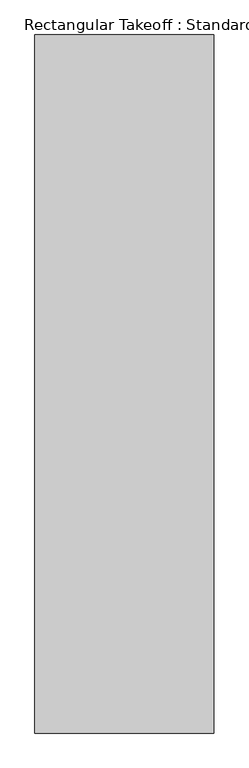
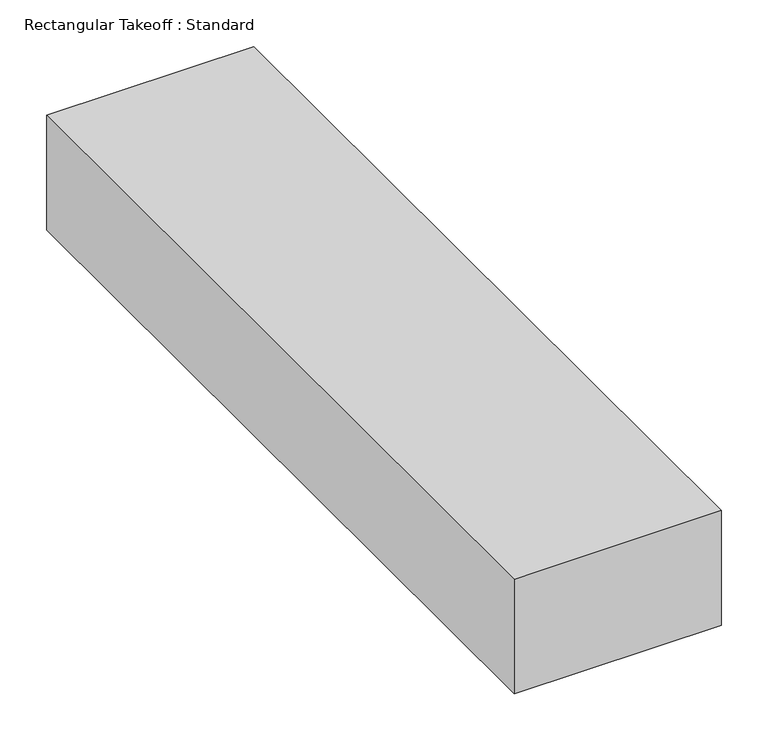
"""IFC4 building model written with IfcOpenShell, lengths in millimetres: duct fitting geometry, Rectangular Takeoff : Standard."""

from ifc_helpers import new_model, si_unit, frame, origin, place, context, project, spatial, polyline, outline, extrude, source, transform, mapped, element, save


def rectangular_takeoff_standard_b59f4a52(model_context):
    return source(origin(), model_context, "Body", "SweptSolid", [
        extrude(outline(polyline([(-6.096, 500.0), (250.0, 500.0), (250.0, -500.0), (-6.096, -500.0), (-6.096, 500.0)])), frame((0.0, 0.0, -75.0), z_axis=(0.0, 0.0, 1.0), x_axis=(1.0, 0.0, 0.0)), (0.0, 0.0, 1.0), 150.0),
    ])


if __name__ == "__main__":
    model = new_model("IFC4")
    model_context = context("Model", 3, world=origin())
    ifc_project = project(units=[si_unit("LENGTHUNIT", "METRE", prefix="MILLI")], contexts=[model_context])
    site = spatial("IfcSite", under=ifc_project)
    building = spatial("IfcBuilding", under=site)
    placement = place(None, origin())
    rectangular_takeoff_standard_shape = rectangular_takeoff_standard_b59f4a52(model_context)
    element("IfcDuctFitting", 1, ObjectType="Rectangular Takeoff : Standard", at=placement, inside=building, context=model_context, shape_type="MappedRepresentation", body=[
        mapped(rectangular_takeoff_standard_shape, transform((0.0, 0.0, 0.0), x_axis=(1.0, 0.0, 0.0), y_axis=(0.0, 1.0, 0.0), z_axis=(0.0, 0.0, 1.0))),
    ])
    save(model, "model.ifc")
